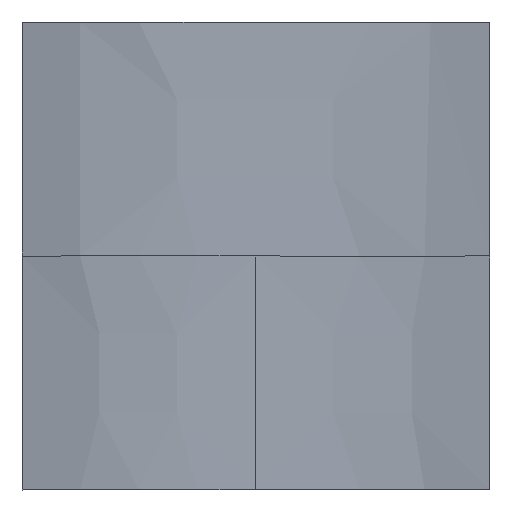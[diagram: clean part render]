
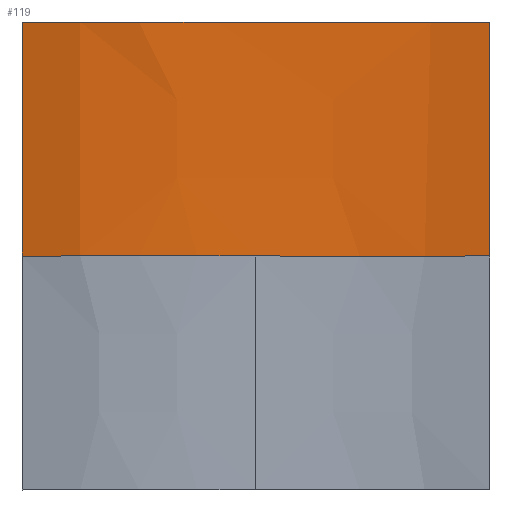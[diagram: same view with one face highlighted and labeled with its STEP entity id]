
A CAD part, top view. The second image highlights one B-rep face of the part: STEP entity #119.
In plain terms, the highlighted free-form (B-spline) face has degree [3, 3] with [4, 4] control points.
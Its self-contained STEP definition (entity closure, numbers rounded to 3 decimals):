
#19=CARTESIAN_POINT('',(0,0,0));
#20=VERTEX_POINT('',#19);
#21=CARTESIAN_POINT('',(99.625,0,4.375));
#22=VERTEX_POINT('',#21);
#23=CARTESIAN_POINT('',(200,0,5));
#24=VERTEX_POINT('',#23);
#25=CARTESIAN_POINT('',(200,100,10));
#26=VERTEX_POINT('',#25);
#27=CARTESIAN_POINT('',(0,100,5));
#28=VERTEX_POINT('',#27);
#35=CARTESIAN_POINT('',(0,0,0));
#36=CARTESIAN_POINT('',(33,0,10));
#37=CARTESIAN_POINT('',(66.25,0,7.5));
#38=CARTESIAN_POINT('',(99.625,0,4.375));
#39=B_SPLINE_CURVE_WITH_KNOTS('',3,(#35,#36,#37,#38),.UNSPECIFIED.,.F.,.F.,(4,4),(0.,1.),.UNSPECIFIED.);
#40=EDGE_CURVE('',#20,#22,#39,.T.);
#41=CARTESIAN_POINT('',(99.625,0,4.375));
#42=CARTESIAN_POINT('',(133,0,1.25));
#43=CARTESIAN_POINT('',(166.5,0,-2.5));
#44=CARTESIAN_POINT('',(200,0,5));
#45=B_SPLINE_CURVE_WITH_KNOTS('',3,(#41,#42,#43,#44),.UNSPECIFIED.,.F.,.F.,(4,4),(0.,1.),.UNSPECIFIED.);
#46=EDGE_CURVE('',#22,#24,#45,.T.);
#47=CARTESIAN_POINT('',(200,0,5));
#48=CARTESIAN_POINT('',(200,33.333,6.667));
#49=CARTESIAN_POINT('',(200,66.667,8.333));
#50=CARTESIAN_POINT('',(200,100,10));
#51=B_SPLINE_CURVE_WITH_KNOTS('',3,(#47,#48,#49,#50),.UNSPECIFIED.,.F.,.F.,(4,4),(0.,1.),.UNSPECIFIED.);
#52=EDGE_CURVE('',#24,#26,#51,.T.);
#53=CARTESIAN_POINT('',(0,100,5));
#54=CARTESIAN_POINT('',(66,100,25));
#55=CARTESIAN_POINT('',(133,100,-5));
#56=CARTESIAN_POINT('',(200,100,10));
#57=B_SPLINE_CURVE_WITH_KNOTS('',3,(#53,#54,#55,#56),.UNSPECIFIED.,.F.,.F.,(4,4),(0.,1.),.UNSPECIFIED.);
#58=EDGE_CURVE('',#28,#26,#57,.T.);
#59=CARTESIAN_POINT('',(0,0,0));
#60=CARTESIAN_POINT('',(0,33.333,1.667));
#61=CARTESIAN_POINT('',(0,66.667,3.333));
#62=CARTESIAN_POINT('',(0,100,5));
#63=B_SPLINE_CURVE_WITH_KNOTS('',3,(#59,#60,#61,#62),.UNSPECIFIED.,.F.,.F.,(4,4),(0.,1.),.UNSPECIFIED.);
#64=EDGE_CURVE('',#20,#28,#63,.T.);
#95=ORIENTED_EDGE('',*,*,#40,.T.);
#96=ORIENTED_EDGE('',*,*,#46,.T.);
#97=ORIENTED_EDGE('',*,*,#52,.T.);
#98=ORIENTED_EDGE('',*,*,#58,.F.);
#99=ORIENTED_EDGE('',*,*,#64,.F.);
#100=CARTESIAN_POINT('',(0,0,0));
#101=CARTESIAN_POINT('',(0,33.333,1.667));
#102=CARTESIAN_POINT('',(0,66.667,3.333));
#103=CARTESIAN_POINT('',(0,100,5));
#104=CARTESIAN_POINT('',(66,0,20));
#105=CARTESIAN_POINT('',(66,33.333,21.667));
#106=CARTESIAN_POINT('',(66,66.667,23.333));
#107=CARTESIAN_POINT('',(66,100,25));
#108=CARTESIAN_POINT('',(133,0,-10));
#109=CARTESIAN_POINT('',(133,33.333,-8.333));
#110=CARTESIAN_POINT('',(133,66.667,-6.667));
#111=CARTESIAN_POINT('',(133,100,-5));
#112=CARTESIAN_POINT('',(200,0,5));
#113=CARTESIAN_POINT('',(200,33.333,6.667));
#114=CARTESIAN_POINT('',(200,66.667,8.333));
#115=CARTESIAN_POINT('',(200,100,10));
#116=B_SPLINE_SURFACE_WITH_KNOTS('',3,3,((#100,#101,#102,#103),(#104,#105,#106,#107),(#108,#109,#110,#111),(#112,#113,#114,#115)),.UNSPECIFIED.,.F.,.F.,.F.,(4,4),(4,4),(0.,1.),(0.,1.),.UNSPECIFIED.);
#117=EDGE_LOOP('',(#95,#96,#97,#98,#99));
#118=FACE_BOUND('',#117,.T.);
#119=ADVANCED_FACE('',(#118),#116,.T.);
